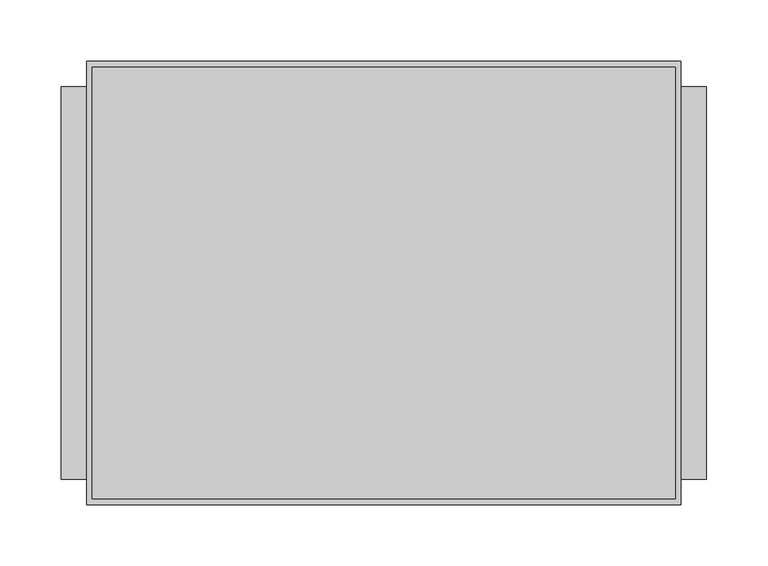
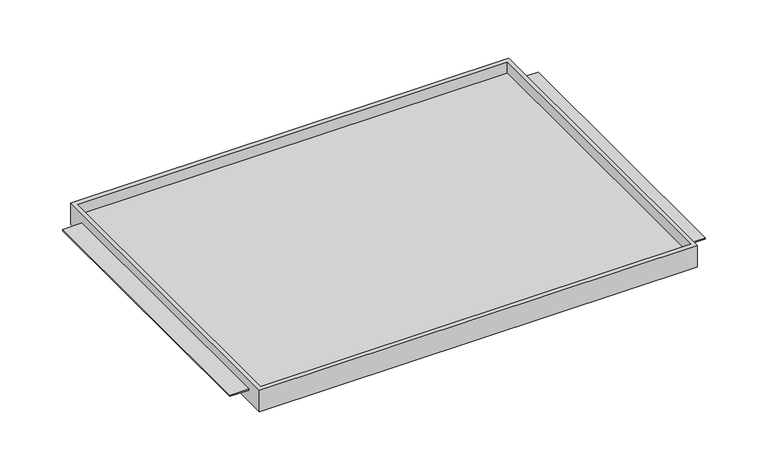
"""IFC4 building model written with IfcOpenShell, lengths in millimetres: furniture geometry."""

from ifc_helpers import new_model, si_unit, origin, place, context, project, spatial, faceted_brep, source, transform, mapped, element, save


def furniture_dc32c65e(model_context):
    return source(origin(), model_context, "Body", "Brep", [
        faceted_brep([(-242.7689646, -180.975, 1676.4), (242.7689646, -180.975, 1676.4), (242.7689646, -180.975, 1701.8), (-242.7689646, -180.975, 1701.8), (-242.7689646, 180.975, 1676.4), (-242.7689646, 180.975, 1701.8), (242.7689646, 180.975, 1701.8), (242.7689646, 180.975, 1676.4), (242.7689646, -160.3374879, 1690.7002), (242.7689646, 160.3374879, 1690.7002), (242.7689646, 160.3374879, 1689.1), (242.7689646, -160.3374879, 1689.1), (238.125, -176.2125, 1701.8), (-238.125, -176.2125, 1701.8), (-238.125, 175.91278, 1701.8), (238.125, 175.91278, 1701.8), (-242.7689646, 160.3374879, 1690.7002), (-242.7689646, -160.3374879, 1690.7002), (-242.7689646, -160.3374879, 1689.1), (-242.7689646, 160.3374879, 1689.1), (-238.125, -176.2125, 1689.1), (238.125, -176.2125, 1689.1), (238.125, 175.91278, 1689.1), (-238.125, 175.91278, 1689.1), (-263.525, 160.3374879, 1690.7002), (-263.525, -160.3374879, 1690.7002), (263.525, -160.3374879, 1690.7002), (263.525, 160.3374879, 1690.7002), (-263.525, -160.3374879, 1689.1), (-263.525, 160.3374879, 1689.1), (263.525, -160.3374879, 1689.1), (263.525, 160.3374879, 1689.1)], [[[0, 1, 2, 3]], [[4, 5, 6, 7]], [[1, 0, 4, 7]], [[2, 1, 7, 6], [8, 9, 10, 11]], [[3, 2, 6, 5], [12, 13, 14, 15]], [[0, 3, 5, 4], [16, 17, 18, 19]], [[20, 21, 22, 23]], [[21, 20, 13, 12]], [[22, 21, 12, 15]], [[23, 22, 15, 14]], [[20, 23, 14, 13]], [[16, 24, 25, 17]], [[26, 27, 9, 8]], [[18, 28, 29, 19]], [[30, 11, 10, 31]], [[24, 16, 19, 29]], [[25, 24, 29, 28]], [[17, 25, 28, 18]], [[27, 26, 30, 31]], [[9, 27, 31, 10]], [[26, 8, 11, 30]]]),
    ])


if __name__ == "__main__":
    model = new_model("IFC4")
    model_context = context("Model", 3, world=origin())
    ifc_project = project(units=[si_unit("LENGTHUNIT", "METRE", prefix="MILLI")], contexts=[model_context])
    site = spatial("IfcSite", under=ifc_project)
    building = spatial("IfcBuilding", under=site)
    placement = place(None, origin())
    furniture_shape = furniture_dc32c65e(model_context)
    element("IfcFurniture", 1, ObjectType="HermanMiller_CoStruc_CO203_CTrayShelf : 14\"D x 20\"W", at=placement, inside=building, context=model_context, shape_type="MappedRepresentation", body=[
        mapped(furniture_shape, transform((0.0, 0.0, 0.0), x_axis=(1.0, 0.0, 0.0), y_axis=(0.0, 1.0, 0.0), z_axis=(0.0, 0.0, 1.0))),
    ])
    save(model, "model.ifc")
